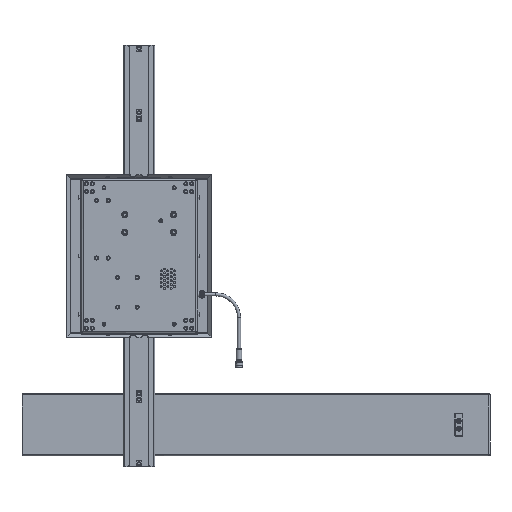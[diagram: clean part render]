
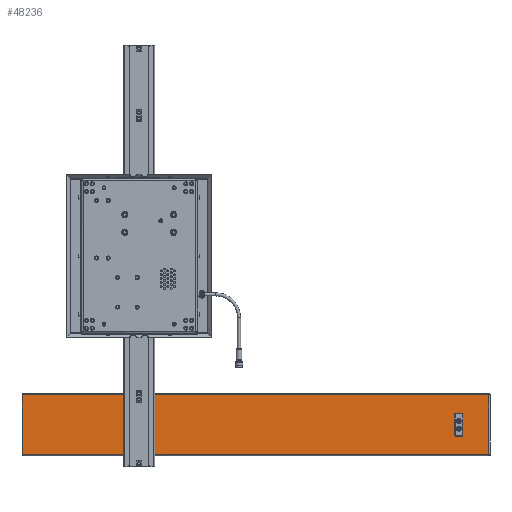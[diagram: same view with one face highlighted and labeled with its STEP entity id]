
A CAD part, front view. The second image highlights one B-rep face of the part: STEP entity #48236.
In plain terms, the highlighted planar face has unit normal (0, -1, 0).
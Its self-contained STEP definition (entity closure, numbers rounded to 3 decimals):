
#165 = LINE ( 'NONE', #33455, #35240 ) ;
#1037 = VERTEX_POINT ( 'NONE', #57128 ) ;
#1978 = VERTEX_POINT ( 'NONE', #42333 ) ;
#2481 = VERTEX_POINT ( 'NONE', #24668 ) ;
#3008 = VERTEX_POINT ( 'NONE', #10360 ) ;
#3728 = DIRECTION ( 'NONE',  ( -1., 0., 0. ) ) ;
#4064 = CARTESIAN_POINT ( 'NONE',  ( 43.698, 5.788, -28.199 ) ) ;
#4076 = CARTESIAN_POINT ( 'NONE',  ( 39.698, 5.788, -23.855 ) ) ;
#4719 = VECTOR ( 'NONE', #3728, 39.37 ) ;
#8592 = DIRECTION ( 'NONE',  ( -1., 0., 0. ) ) ;
#10360 = CARTESIAN_POINT ( 'NONE',  ( 39.826, 5.788, -24.855 ) ) ;
#10432 = FACE_BOUND ( 'NONE', #46976, .T. ) ;
#11052 = CIRCLE ( 'NONE', #33654, 0.129 ) ;
#12292 = CARTESIAN_POINT ( 'NONE',  ( -16.302, 5.788, -28.199 ) ) ;
#13560 = DIRECTION ( 'NONE',  ( -1., 0., 0. ) ) ;
#13575 = DIRECTION ( 'NONE',  ( 0., 1., 0. ) ) ;
#13651 = CARTESIAN_POINT ( 'NONE',  ( 39.698, 5.788, -24.855 ) ) ;
#13850 = ORIENTED_EDGE ( 'NONE', *, *, #53275, .T. ) ;
#14428 = ORIENTED_EDGE ( 'NONE', *, *, #55223, .T. ) ;
#14596 = ORIENTED_EDGE ( 'NONE', *, *, #39257, .T. ) ;
#14736 = DIRECTION ( 'NONE',  ( -1., 0., 0. ) ) ;
#14746 = DIRECTION ( 'NONE',  ( 0., 1., 0. ) ) ;
#14813 = ORIENTED_EDGE ( 'NONE', *, *, #49001, .T. ) ;
#14865 = CARTESIAN_POINT ( 'NONE',  ( 39.698, 5.788, -24.855 ) ) ;
#15489 = AXIS2_PLACEMENT_3D ( 'NONE', #42647, #42509, #42445 ) ;
#15560 = ORIENTED_EDGE ( 'NONE', *, *, #27644, .F. ) ;
#15611 = ORIENTED_EDGE ( 'NONE', *, *, #20116, .T. ) ;
#16186 = ORIENTED_EDGE ( 'NONE', *, *, #30057, .T. ) ;
#16236 = ORIENTED_EDGE ( 'NONE', *, *, #33438, .F. ) ;
#17179 = CARTESIAN_POINT ( 'NONE',  ( 39.698, 5.788, -23.855 ) ) ;
#17642 = VECTOR ( 'NONE', #23247, 39.37 ) ;
#20116 = EDGE_CURVE ( 'NONE', #52668, #44703, #165, .T. ) ;
#21807 = DIRECTION ( 'NONE',  ( -1., 0., 0. ) ) ;
#23247 = DIRECTION ( 'NONE',  ( 0., 0., 1. ) ) ;
#24354 = CARTESIAN_POINT ( 'NONE',  ( 43.557, 5.788, -28.199 ) ) ;
#24667 = CARTESIAN_POINT ( 'NONE',  ( 43.557, 5.788, -20.511 ) ) ;
#24668 = CARTESIAN_POINT ( 'NONE',  ( 39.569, 5.788, -23.855 ) ) ;
#24766 = CARTESIAN_POINT ( 'NONE',  ( -16.302, 5.788, -28.34 ) ) ;
#26801 = AXIS2_PLACEMENT_3D ( 'NONE', #4076, #36162, #8592 ) ;
#27644 = EDGE_CURVE ( 'NONE', #52668, #49086, #53473, .T. ) ;
#27751 = AXIS2_PLACEMENT_3D ( 'NONE', #13651, #13575, #13560 ) ;
#27767 = CIRCLE ( 'NONE', #45358, 0.129 ) ;
#28116 = LINE ( 'NONE', #53426, #40335 ) ;
#29288 = EDGE_LOOP ( 'NONE', ( #14596, #14813 ) ) ;
#30057 = EDGE_CURVE ( 'NONE', #44703, #56626, #28116, .T. ) ;
#30753 = CIRCLE ( 'NONE', #26801, 0.129 ) ;
#33128 = DIRECTION ( 'NONE',  ( 0., 0., 1. ) ) ;
#33438 = EDGE_CURVE ( 'NONE', #49086, #56626, #54298, .T. ) ;
#33455 = CARTESIAN_POINT ( 'NONE',  ( 43.557, 5.788, -28.199 ) ) ;
#33654 = AXIS2_PLACEMENT_3D ( 'NONE', #14865, #14746, #14736 ) ;
#35240 = VECTOR ( 'NONE', #33128, 39.37 ) ;
#36162 = DIRECTION ( 'NONE',  ( 0., 1., 0. ) ) ;
#37846 = CARTESIAN_POINT ( 'NONE',  ( -16.302, 5.788, -20.511 ) ) ;
#39257 = EDGE_CURVE ( 'NONE', #1037, #3008, #43962, .T. ) ;
#40335 = VECTOR ( 'NONE', #53105, 39.37 ) ;
#42333 = CARTESIAN_POINT ( 'NONE',  ( 39.826, 5.788, -23.855 ) ) ;
#42445 = DIRECTION ( 'NONE',  ( 1., 0., 0. ) ) ;
#42509 = DIRECTION ( 'NONE',  ( 0., -1., 0. ) ) ;
#42592 = PLANE ( 'NONE',  #15489 ) ;
#42647 = CARTESIAN_POINT ( 'NONE',  ( 43.698, 5.788, -28.34 ) ) ;
#43962 = CIRCLE ( 'NONE', #27751, 0.129 ) ;
#44703 = VERTEX_POINT ( 'NONE', #24667 ) ;
#45358 = AXIS2_PLACEMENT_3D ( 'NONE', #17179, #49386, #21807 ) ;
#45663 = FACE_OUTER_BOUND ( 'NONE', #52116, .T. ) ;
#46976 = EDGE_LOOP ( 'NONE', ( #13850, #14428 ) ) ;
#48236 = ADVANCED_FACE ( 'NONE', ( #10432, #48552, #45663 ), #42592, .T. ) ;
#48552 = FACE_BOUND ( 'NONE', #29288, .T. ) ;
#49001 = EDGE_CURVE ( 'NONE', #3008, #1037, #11052, .T. ) ;
#49086 = VERTEX_POINT ( 'NONE', #12292 ) ;
#49386 = DIRECTION ( 'NONE',  ( 0., 1., 0. ) ) ;
#52116 = EDGE_LOOP ( 'NONE', ( #15560, #15611, #16186, #16236 ) ) ;
#52668 = VERTEX_POINT ( 'NONE', #24354 ) ;
#53105 = DIRECTION ( 'NONE',  ( -1., 0., 0. ) ) ;
#53275 = EDGE_CURVE ( 'NONE', #2481, #1978, #30753, .T. ) ;
#53426 = CARTESIAN_POINT ( 'NONE',  ( 43.698, 5.788, -20.511 ) ) ;
#53473 = LINE ( 'NONE', #4064, #4719 ) ;
#54298 = LINE ( 'NONE', #24766, #17642 ) ;
#55223 = EDGE_CURVE ( 'NONE', #1978, #2481, #27767, .T. ) ;
#56626 = VERTEX_POINT ( 'NONE', #37846 ) ;
#57128 = CARTESIAN_POINT ( 'NONE',  ( 39.569, 5.788, -24.855 ) ) ;
